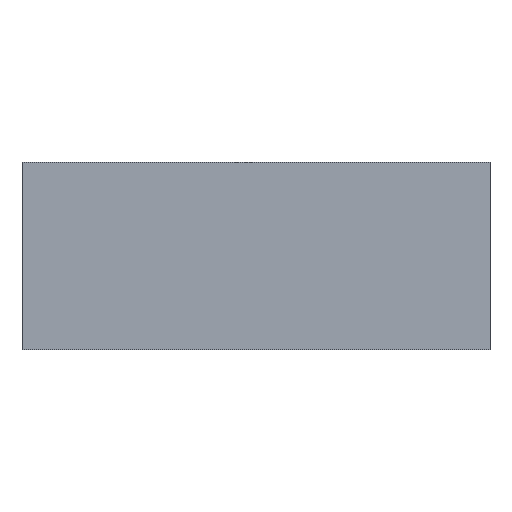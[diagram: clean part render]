
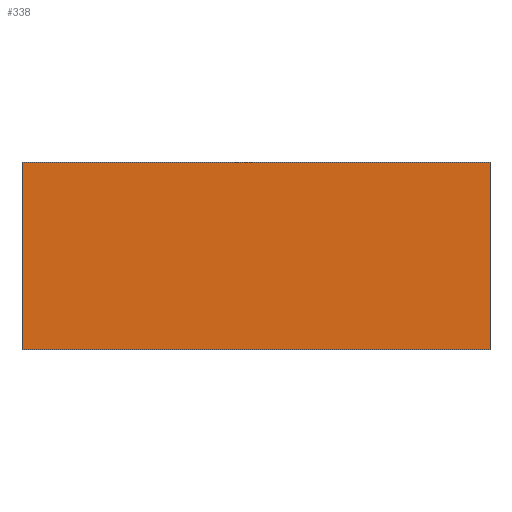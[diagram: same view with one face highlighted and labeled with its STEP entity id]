
A CAD part, top view. The second image highlights one B-rep face of the part: STEP entity #338.
In plain terms, the highlighted planar face has unit normal (0, 0, 1).
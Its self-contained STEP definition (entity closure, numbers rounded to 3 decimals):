
#24 = VERTEX_POINT('',#25);
#25 = CARTESIAN_POINT('',(-50.,-20.,5.));
#32 = PLANE('',#33);
#33 = AXIS2_PLACEMENT_3D('',#34,#35,#36);
#34 = CARTESIAN_POINT('',(-50.,-20.,0.));
#35 = DIRECTION('',(0.,1.,0.));
#36 = DIRECTION('',(1.,0.,0.));
#44 = PLANE('',#45);
#45 = AXIS2_PLACEMENT_3D('',#46,#47,#48);
#46 = CARTESIAN_POINT('',(-50.,20.,0.));
#47 = DIRECTION('',(1.,0.,-0.));
#48 = DIRECTION('',(0.,-1.,0.));
#56 = EDGE_CURVE('',#24,#57,#59,.T.);
#57 = VERTEX_POINT('',#58);
#58 = CARTESIAN_POINT('',(50.,-20.,5.));
#59 = SURFACE_CURVE('',#60,(#64,#71),.PCURVE_S1.);
#60 = LINE('',#61,#62);
#61 = CARTESIAN_POINT('',(-50.,-20.,5.));
#62 = VECTOR('',#63,1.);
#63 = DIRECTION('',(1.,0.,0.));
#64 = PCURVE('',#32,#65);
#65 = DEFINITIONAL_REPRESENTATION('',(#66),#70);
#66 = LINE('',#67,#68);
#67 = CARTESIAN_POINT('',(0.,-5.));
#68 = VECTOR('',#69,1.);
#69 = DIRECTION('',(1.,0.));
#70 = ( GEOMETRIC_REPRESENTATION_CONTEXT(2) 
PARAMETRIC_REPRESENTATION_CONTEXT() REPRESENTATION_CONTEXT('2D SPACE',''
  ) );
#71 = PCURVE('',#72,#77);
#72 = PLANE('',#73);
#73 = AXIS2_PLACEMENT_3D('',#74,#75,#76);
#74 = CARTESIAN_POINT('',(0.,0.,5.));
#75 = DIRECTION('',(0.,0.,1.));
#76 = DIRECTION('',(1.,0.,-0.));
#77 = DEFINITIONAL_REPRESENTATION('',(#78),#82);
#78 = LINE('',#79,#80);
#79 = CARTESIAN_POINT('',(-50.,-20.));
#80 = VECTOR('',#81,1.);
#81 = DIRECTION('',(1.,0.));
#82 = ( GEOMETRIC_REPRESENTATION_CONTEXT(2) 
PARAMETRIC_REPRESENTATION_CONTEXT() REPRESENTATION_CONTEXT('2D SPACE',''
  ) );
#100 = PLANE('',#101);
#101 = AXIS2_PLACEMENT_3D('',#102,#103,#104);
#102 = CARTESIAN_POINT('',(50.,-20.,0.));
#103 = DIRECTION('',(-1.,0.,0.));
#104 = DIRECTION('',(0.,1.,0.));
#142 = EDGE_CURVE('',#57,#143,#145,.T.);
#143 = VERTEX_POINT('',#144);
#144 = CARTESIAN_POINT('',(50.,20.,5.));
#145 = SURFACE_CURVE('',#146,(#150,#157),.PCURVE_S1.);
#146 = LINE('',#147,#148);
#147 = CARTESIAN_POINT('',(50.,-20.,5.));
#148 = VECTOR('',#149,1.);
#149 = DIRECTION('',(0.,1.,0.));
#150 = PCURVE('',#100,#151);
#151 = DEFINITIONAL_REPRESENTATION('',(#152),#156);
#152 = LINE('',#153,#154);
#153 = CARTESIAN_POINT('',(0.,-5.));
#154 = VECTOR('',#155,1.);
#155 = DIRECTION('',(1.,0.));
#156 = ( GEOMETRIC_REPRESENTATION_CONTEXT(2) 
PARAMETRIC_REPRESENTATION_CONTEXT() REPRESENTATION_CONTEXT('2D SPACE',''
  ) );
#157 = PCURVE('',#72,#158);
#158 = DEFINITIONAL_REPRESENTATION('',(#159),#163);
#159 = LINE('',#160,#161);
#160 = CARTESIAN_POINT('',(50.,-20.));
#161 = VECTOR('',#162,1.);
#162 = DIRECTION('',(0.,1.));
#163 = ( GEOMETRIC_REPRESENTATION_CONTEXT(2) 
PARAMETRIC_REPRESENTATION_CONTEXT() REPRESENTATION_CONTEXT('2D SPACE',''
  ) );
#181 = PLANE('',#182);
#182 = AXIS2_PLACEMENT_3D('',#183,#184,#185);
#183 = CARTESIAN_POINT('',(50.,20.,0.));
#184 = DIRECTION('',(0.,-1.,0.));
#185 = DIRECTION('',(-1.,0.,0.));
#218 = EDGE_CURVE('',#143,#219,#221,.T.);
#219 = VERTEX_POINT('',#220);
#220 = CARTESIAN_POINT('',(-50.,20.,5.));
#221 = SURFACE_CURVE('',#222,(#226,#233),.PCURVE_S1.);
#222 = LINE('',#223,#224);
#223 = CARTESIAN_POINT('',(50.,20.,5.));
#224 = VECTOR('',#225,1.);
#225 = DIRECTION('',(-1.,0.,0.));
#226 = PCURVE('',#181,#227);
#227 = DEFINITIONAL_REPRESENTATION('',(#228),#232);
#228 = LINE('',#229,#230);
#229 = CARTESIAN_POINT('',(0.,-5.));
#230 = VECTOR('',#231,1.);
#231 = DIRECTION('',(1.,0.));
#232 = ( GEOMETRIC_REPRESENTATION_CONTEXT(2) 
PARAMETRIC_REPRESENTATION_CONTEXT() REPRESENTATION_CONTEXT('2D SPACE',''
  ) );
#233 = PCURVE('',#72,#234);
#234 = DEFINITIONAL_REPRESENTATION('',(#235),#239);
#235 = LINE('',#236,#237);
#236 = CARTESIAN_POINT('',(50.,20.));
#237 = VECTOR('',#238,1.);
#238 = DIRECTION('',(-1.,0.));
#239 = ( GEOMETRIC_REPRESENTATION_CONTEXT(2) 
PARAMETRIC_REPRESENTATION_CONTEXT() REPRESENTATION_CONTEXT('2D SPACE',''
  ) );
#289 = EDGE_CURVE('',#219,#24,#290,.T.);
#290 = SURFACE_CURVE('',#291,(#295,#302),.PCURVE_S1.);
#291 = LINE('',#292,#293);
#292 = CARTESIAN_POINT('',(-50.,20.,5.));
#293 = VECTOR('',#294,1.);
#294 = DIRECTION('',(0.,-1.,0.));
#295 = PCURVE('',#44,#296);
#296 = DEFINITIONAL_REPRESENTATION('',(#297),#301);
#297 = LINE('',#298,#299);
#298 = CARTESIAN_POINT('',(0.,-5.));
#299 = VECTOR('',#300,1.);
#300 = DIRECTION('',(1.,0.));
#301 = ( GEOMETRIC_REPRESENTATION_CONTEXT(2) 
PARAMETRIC_REPRESENTATION_CONTEXT() REPRESENTATION_CONTEXT('2D SPACE',''
  ) );
#302 = PCURVE('',#72,#303);
#303 = DEFINITIONAL_REPRESENTATION('',(#304),#308);
#304 = LINE('',#305,#306);
#305 = CARTESIAN_POINT('',(-50.,20.));
#306 = VECTOR('',#307,1.);
#307 = DIRECTION('',(0.,-1.));
#308 = ( GEOMETRIC_REPRESENTATION_CONTEXT(2) 
PARAMETRIC_REPRESENTATION_CONTEXT() REPRESENTATION_CONTEXT('2D SPACE',''
  ) );
#338 = ADVANCED_FACE('',(#339),#72,.T.);
#339 = FACE_BOUND('',#340,.T.);
#340 = EDGE_LOOP('',(#341,#342,#343,#344));
#341 = ORIENTED_EDGE('',*,*,#56,.T.);
#342 = ORIENTED_EDGE('',*,*,#142,.T.);
#343 = ORIENTED_EDGE('',*,*,#218,.T.);
#344 = ORIENTED_EDGE('',*,*,#289,.T.);
